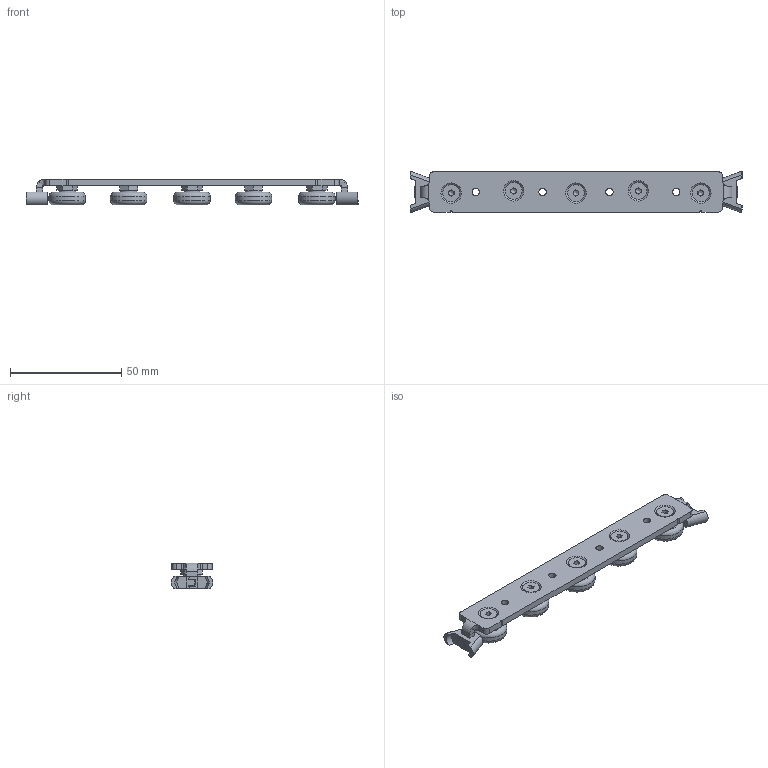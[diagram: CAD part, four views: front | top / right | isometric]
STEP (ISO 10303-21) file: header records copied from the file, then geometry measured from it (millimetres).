
FILE_DESCRIPTION (( 'STEP AP214' ), '1' );
FILE_NAME ('RLS22-5-A.STEP', '2022-02-01T12:43:13', ( '' ), ( '' ), 'SwSTEP 2.0', 'SolidWorks 2019', '' );
FILE_SCHEMA (( 'AUTOMOTIVE_DESIGN' ));
Length unit declared in the file: millimetre
Products named in the file (6): 39238; 29287_01; 42735; DIN 7991 - M4 x 8 (V2A)_DIN 7991 - M4 x 8 --- 5.6C_V2A; 40945; RLS22-5-A
Assembly tree (13 placements, depth 2):
  RLS22-5-A
    29287_01
    40945  x3
    42735  x2
    39238  x2
    DIN 7991 - M4 x 8 (V2A)_DIN 7991 - M4 x 8 --- 5.6C_V2A  x5
Bounding box: 149 x 18.61 x 11.65 mm (x, y, z)
Volume: 14582.8 mm3; surface area: 12169.9 mm2
Topology: 13 solids, 13 shells, 305 faces, 699 edges, 434 vertices
Faces by surface type: plane 200, cylinder 48, cone 30, torus 15, bspline 12
Full cylindrical faces by diameter (mm): 3.3 x9, 4 x5, 4.5 x5, 7.5 x5, 7.64 x5, 16.4 x5
Entity records: 4669 total; most frequent: CARTESIAN_POINT 972, DIRECTION 674, ORIENTED_EDGE 606, EDGE_CURVE 303, AXIS2_PLACEMENT_3D 239, VERTEX_POINT 211, EDGE_LOOP 206, VECTOR 196
